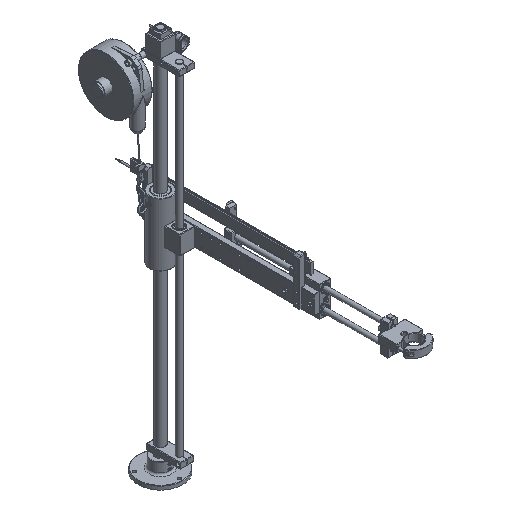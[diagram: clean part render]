
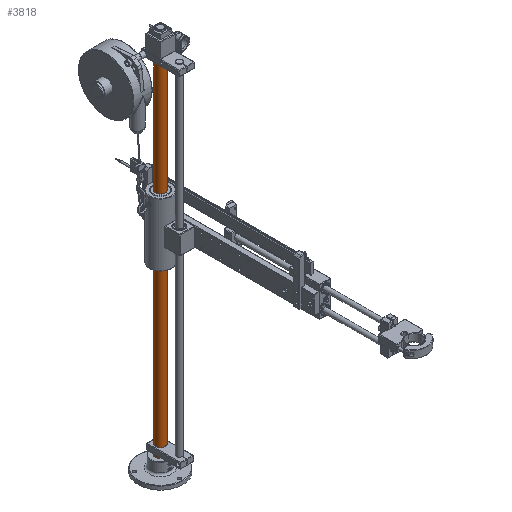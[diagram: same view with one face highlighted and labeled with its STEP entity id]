
A CAD part, isometric view. The second image highlights one B-rep face of the part: STEP entity #3818.
In plain terms, the highlighted cylindrical face has radius 12.5 mm (diameter 25 mm), a full revolution.
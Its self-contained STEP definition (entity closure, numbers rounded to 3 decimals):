
#3818 = ADVANCED_FACE( '', ( #8686, #8687 ), #8688, .T. );
#8686 = FACE_OUTER_BOUND( '', #16039, .T. );
#8687 = FACE_OUTER_BOUND( '', #16040, .T. );
#8688 = CYLINDRICAL_SURFACE( '', #16041, 12.5 );
#16039 = EDGE_LOOP( '', ( #25063 ) );
#16040 = EDGE_LOOP( '', ( #25064 ) );
#16041 = AXIS2_PLACEMENT_3D( '', #25065, #25066, #25067 );
#25063 = ORIENTED_EDGE( '', *, *, #37424, .T. );
#25064 = ORIENTED_EDGE( '', *, *, #37425, .F. );
#25065 = CARTESIAN_POINT( '', ( 0., 0., 957. ) );
#25066 = DIRECTION( '', ( 0., 0., 1. ) );
#25067 = DIRECTION( '', ( -1., 0., 0. ) );
#37424 = EDGE_CURVE( '', #43456, #43456, #43457, .T. );
#37425 = EDGE_CURVE( '', #43458, #43458, #43459, .T. );
#43456 = VERTEX_POINT( '', #50683 );
#43457 = CIRCLE( '', #50684, 12.5 );
#43458 = VERTEX_POINT( '', #50685 );
#43459 = CIRCLE( '', #50686, 12.5 );
#50683 = CARTESIAN_POINT( '', ( 12.5, 0., 957. ) );
#50684 = AXIS2_PLACEMENT_3D( '', #59383, #59384, #59385 );
#50685 = CARTESIAN_POINT( '', ( 12.5, 0., 0. ) );
#50686 = AXIS2_PLACEMENT_3D( '', #59386, #59387, #59388 );
#59383 = CARTESIAN_POINT( '', ( 0., 0., 957. ) );
#59384 = DIRECTION( '', ( 0., 0., -1. ) );
#59385 = DIRECTION( '', ( 1., 0., 0. ) );
#59386 = CARTESIAN_POINT( '', ( 0., 0., 0. ) );
#59387 = DIRECTION( '', ( 0., 0., -1. ) );
#59388 = DIRECTION( '', ( 1., 0., 0. ) );
